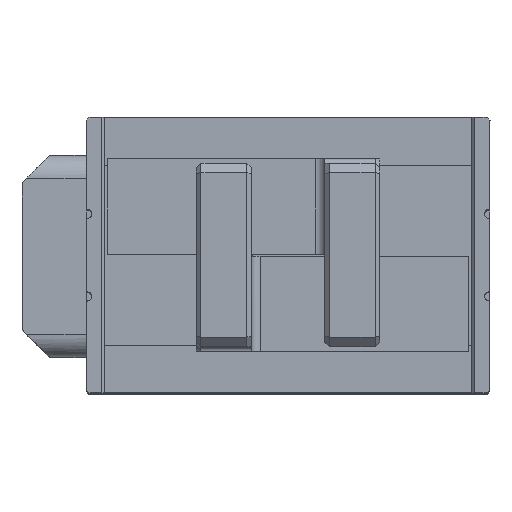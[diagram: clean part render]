
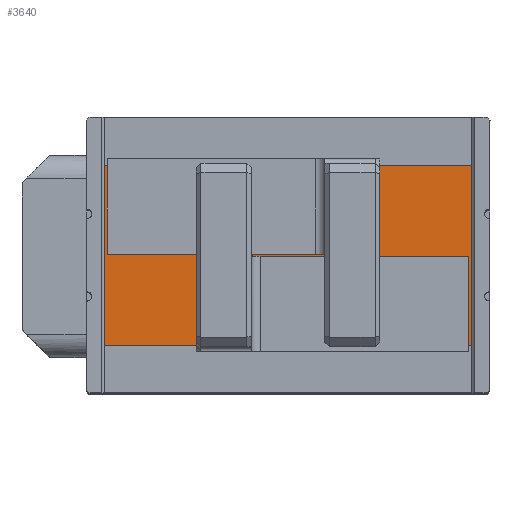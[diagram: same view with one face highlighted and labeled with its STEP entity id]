
A CAD part, top view. The second image highlights one B-rep face of the part: STEP entity #3640.
In plain terms, the highlighted planar face has unit normal (0, 0, 1).
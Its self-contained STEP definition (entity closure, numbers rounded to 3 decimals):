
#87 = LINE ( 'NONE', #9579, #6950 ) ;
#146 = CARTESIAN_POINT ( 'NONE',  ( -153.077, -9.8, 97.827 ) ) ;
#400 = CARTESIAN_POINT ( 'NONE',  ( -193.077, -9.8, 97.827 ) ) ;
#870 = ORIENTED_EDGE ( 'NONE', *, *, #902, .T. ) ;
#902 = EDGE_CURVE ( 'NONE', #11235, #10607, #9958, .T. ) ;
#1300 = DIRECTION ( 'NONE',  ( -1., 0., 0. ) ) ;
#1995 = CARTESIAN_POINT ( 'NONE',  ( -153.077, 10., 97.827 ) ) ;
#2056 = AXIS2_PLACEMENT_3D ( 'NONE', #4579, #3736, #8105 ) ;
#2069 = LINE ( 'NONE', #7356, #4269 ) ;
#2739 = CARTESIAN_POINT ( 'NONE',  ( -193.077, 9.8, 97.827 ) ) ;
#3640 = ADVANCED_FACE ( 'NONE', ( #4464 ), #5508, .F. ) ;
#3736 = DIRECTION ( 'NONE',  ( 0., 0., -1. ) ) ;
#4269 = VECTOR ( 'NONE', #1300, 1000. ) ;
#4438 = VECTOR ( 'NONE', #10632, 1000. ) ;
#4464 = FACE_OUTER_BOUND ( 'NONE', #5411, .T. ) ;
#4579 = CARTESIAN_POINT ( 'NONE',  ( -173.077, 0., 97.827 ) ) ;
#5115 = EDGE_CURVE ( 'NONE', #9073, #10607, #2069, .T. ) ;
#5313 = EDGE_CURVE ( 'NONE', #9073, #7794, #9757, .T. ) ;
#5411 = EDGE_LOOP ( 'NONE', ( #870, #7149, #10141, #10782 ) ) ;
#5508 = PLANE ( 'NONE',  #2056 ) ;
#6404 = CARTESIAN_POINT ( 'NONE',  ( -193.077, -10., 97.827 ) ) ;
#6673 = VECTOR ( 'NONE', #9893, 1000. ) ;
#6950 = VECTOR ( 'NONE', #10027, 1000. ) ;
#7149 = ORIENTED_EDGE ( 'NONE', *, *, #5115, .F. ) ;
#7356 = CARTESIAN_POINT ( 'NONE',  ( -140.886, -9.8, 97.827 ) ) ;
#7794 = VERTEX_POINT ( 'NONE', #10039 ) ;
#8105 = DIRECTION ( 'NONE',  ( -1., 0., 0. ) ) ;
#9073 = VERTEX_POINT ( 'NONE', #146 ) ;
#9579 = CARTESIAN_POINT ( 'NONE',  ( -140.886, 9.8, 97.827 ) ) ;
#9599 = EDGE_CURVE ( 'NONE', #7794, #11235, #87, .T. ) ;
#9757 = LINE ( 'NONE', #1995, #4438 ) ;
#9893 = DIRECTION ( 'NONE',  ( 0., -1., 0. ) ) ;
#9958 = LINE ( 'NONE', #6404, #6673 ) ;
#10027 = DIRECTION ( 'NONE',  ( -1., 0., 0. ) ) ;
#10039 = CARTESIAN_POINT ( 'NONE',  ( -153.077, 9.8, 97.827 ) ) ;
#10141 = ORIENTED_EDGE ( 'NONE', *, *, #5313, .T. ) ;
#10607 = VERTEX_POINT ( 'NONE', #400 ) ;
#10632 = DIRECTION ( 'NONE',  ( 0., 1., 0. ) ) ;
#10782 = ORIENTED_EDGE ( 'NONE', *, *, #9599, .T. ) ;
#11235 = VERTEX_POINT ( 'NONE', #2739 ) ;
